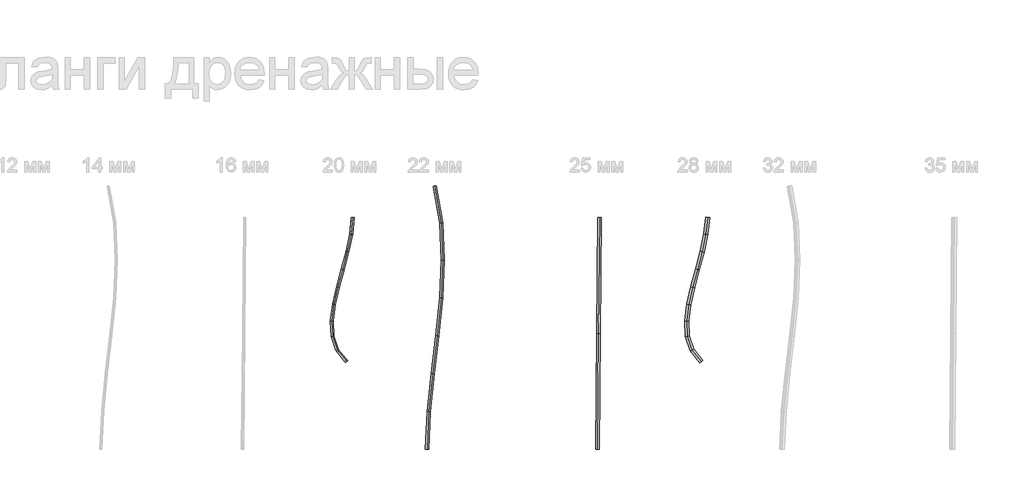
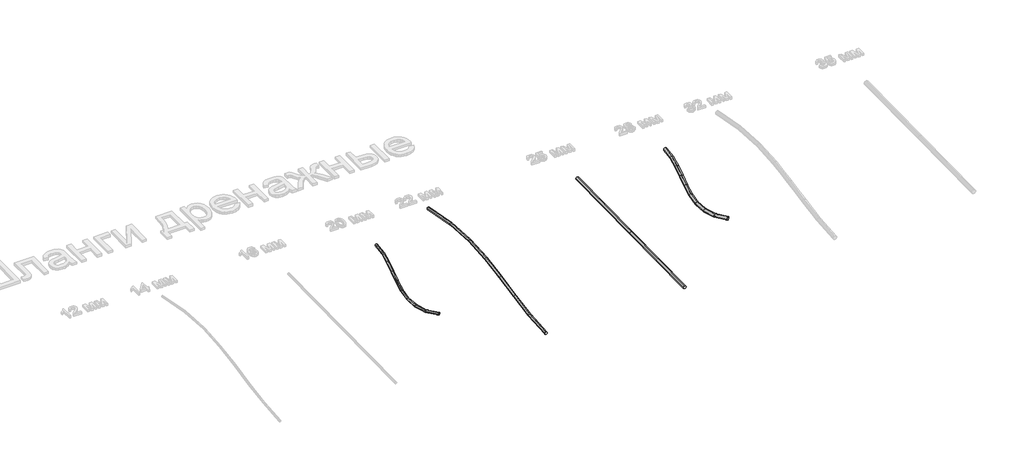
# One storey, part 2 of 21: 4 pipe segments.
"""IFC4 building model written with IfcOpenShell, lengths in millimetres."""

from ifc_helpers import new_model, si_unit, frame, origin, place, context, project, spatial, circle_curve, ellipse_curve, element, save
from ifc_brep_helpers import plane_surface, cylinder_surface, advanced_brep

model = new_model("IFC4")

# Units and contexts
model_context = context("Model", 3, world=origin())
ifc_project = project(units=[si_unit("LENGTHUNIT", "METRE", prefix="MILLI")], contexts=[model_context])

# Site, building, storey
site = spatial("IfcSite", under=ifc_project)
building = spatial("IfcBuilding", under=site)
storey = spatial("IfcBuildingStorey", under=building, Name="Этаж 01", Elevation=0.0)

# Pipe segments
placement = place(None, origin())
element("IfcPipeSegment", 1, ObjectType="Шланги дренажные ДКС", at=placement, inside=storey, context=model_context, shape_type="AdvancedBrep", body=[
    advanced_brep(
    [(9677.1656935, -2750.0604781, 0.0), (9667.2101295, -2749.1188064, -10.0), (9657.2545655, -2748.1771347, 0.0), (9667.2101295, -2749.1188064, 10.0), (9666.0578065, -2867.4955407, 0.0), (9656.1552474, -2865.9934903, -10.0), (9646.2526882, -2864.4914399, 0.0), (9656.1552474, -2865.9934903, 10.0), (9631.3854271, -3759.3198663, 0.0), (9623.6037335, -3765.6004113, 10.0), (9615.8220399, -3771.8809562, 0.0), (9623.6037335, -3765.6004113, -10.0), (9640.1650921, -2990.9340936, 0.0), (9630.4331674, -2988.6185758, -10.0), (9620.7012428, -2986.303058, 0.0), (9630.4331674, -2988.6185758, 10.0), (9606.6580056, -3116.6830524, 0.0), (9596.9951595, -3114.108289, -10.0), (9587.3323135, -3111.5335256, 0.0), (9596.9951595, -3114.108289, 10.0), (9572.4949027, -3242.0071091, 0.0), (9562.7924934, -3239.5768561, -10.0), (9553.0900842, -3237.1466031, 0.0), (9562.7924934, -3239.5768561, 10.0), (9544.6342621, -3363.8888682, 0.0), (9534.776439, -3362.1385031, -10.0), (9524.9186159, -3360.3881379, 0.0), (9534.776439, -3362.1385031, 10.0), (9529.9288845, -3479.3016639, 0.0), (9519.8982659, -3478.907456, -10.0), (9509.8676474, -3478.513248, 0.0), (9519.8982659, -3478.907456, 10.0), (9535.0311871, -3585.13791, 0.0), (9525.1092441, -3586.9979409, -10.0), (9515.1873011, -3588.8579718, 0.0), (9525.1092441, -3586.9979409, 10.0), (9566.2741509, -3678.6459742, 0.0), (9557.3606434, -3683.524184, -10.0), (9548.4471359, -3688.4023938, 0.0), (9557.3606434, -3683.524184, 10.0)],
    [
        (0, 1, circle_curve(frame((9667.2101295, -2749.1188064, 0.0), z_axis=(0.09416717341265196, 0.9955563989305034, 0.0), x_axis=(0.9955563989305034, -0.09416717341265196, 0.0)), 10.0)),
        (1, 2, circle_curve(frame((9667.2101295, -2749.1188064, 0.0), z_axis=(0.09416717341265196, 0.9955563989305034, 0.0), x_axis=(0.9955563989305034, -0.09416717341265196, 0.0)), 10.0)),
        (2, 3, circle_curve(frame((9667.2101295, -2749.1188064, 0.0), z_axis=(0.09416717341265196, 0.9955563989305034, 0.0), x_axis=(0.9955563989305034, -0.09416717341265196, 0.0)), 10.0)),
        (3, 0, circle_curve(frame((9667.2101295, -2749.1188064, 0.0), z_axis=(0.09416717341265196, 0.9955563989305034, 0.0), x_axis=(0.9955563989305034, -0.09416717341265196, 0.0)), 10.0)),
        (0, 4),
        (4, 5, ellipse_curve(frame((9656.1552474, -2865.9934903, 0.0), z_axis=(0.14996765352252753, 0.9886909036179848, 0.0), x_axis=(-0.9886909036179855, 0.1499676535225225, 0.0)), 10.0158292, 10.0)),
        (5, 1),
        (5, 6, ellipse_curve(frame((9656.1552474, -2865.9934903, 0.0), z_axis=(0.14996765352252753, 0.9886909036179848, 0.0), x_axis=(-0.9886909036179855, 0.1499676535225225, 0.0)), 10.0158292, 10.0)),
        (6, 2),
        (6, 7, ellipse_curve(frame((9656.1552474, -2865.9934903, 0.0), z_axis=(0.14996765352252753, 0.9886909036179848, 0.0), x_axis=(-0.9886909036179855, 0.1499676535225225, 0.0)), 10.0158292, 10.0)),
        (7, 3),
        (7, 4, ellipse_curve(frame((9656.1552474, -2865.9934903, 0.0), z_axis=(0.14996765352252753, 0.9886909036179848, 0.0), x_axis=(-0.9886909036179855, 0.1499676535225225, 0.0)), 10.0158292, 10.0)),
        (8, 9, circle_curve(frame((9623.6037335, -3765.6004113, 0.0), z_axis=(0.6280544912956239, -0.7781693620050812, 0.0), x_axis=(0.7781693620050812, 0.6280544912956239, 0.0)), 10.0)),
        (9, 10, circle_curve(frame((9623.6037335, -3765.6004113, 0.0), z_axis=(0.6280544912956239, -0.7781693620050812, 0.0), x_axis=(0.7781693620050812, 0.6280544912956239, 0.0)), 10.0)),
        (10, 11, circle_curve(frame((9623.6037335, -3765.6004113, 0.0), z_axis=(0.6280544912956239, -0.7781693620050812, 0.0), x_axis=(0.7781693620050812, 0.6280544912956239, 0.0)), 10.0)),
        (11, 8, circle_curve(frame((9623.6037335, -3765.6004113, 0.0), z_axis=(0.6280544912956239, -0.7781693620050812, 0.0), x_axis=(0.7781693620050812, 0.6280544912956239, 0.0)), 10.0)),
        (4, 12),
        (12, 13, ellipse_curve(frame((9630.4331674, -2988.6185758, 0.0), z_axis=(0.23146848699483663, 0.9728424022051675, 0.0), x_axis=(-0.9728424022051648, 0.23146848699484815, 0.0)), 10.0035984, 10.0)),
        (13, 5),
        (13, 14, ellipse_curve(frame((9630.4331674, -2988.6185758, 0.0), z_axis=(0.23146848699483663, 0.9728424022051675, 0.0), x_axis=(-0.9728424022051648, 0.23146848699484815, 0.0)), 10.0035984, 10.0)),
        (14, 6),
        (14, 15, ellipse_curve(frame((9630.4331674, -2988.6185758, 0.0), z_axis=(0.23146848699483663, 0.9728424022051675, 0.0), x_axis=(-0.9728424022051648, 0.23146848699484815, 0.0)), 10.0035984, 10.0)),
        (15, 7),
        (15, 12, ellipse_curve(frame((9630.4331674, -2988.6185758, 0.0), z_axis=(0.23146848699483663, 0.9728424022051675, 0.0), x_axis=(-0.9728424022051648, 0.23146848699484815, 0.0)), 10.0035984, 10.0)),
        (12, 16),
        (16, 17, circle_curve(frame((9596.9951595, -3114.108289, 0.0), z_axis=(0.2574763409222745, 0.9662846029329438, 0.0), x_axis=(0.9662846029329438, -0.2574763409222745, 0.0)), 10.0)),
        (17, 13),
        (17, 18, circle_curve(frame((9596.9951595, -3114.108289, 0.0), z_axis=(0.2574763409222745, 0.9662846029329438, 0.0), x_axis=(0.9662846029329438, -0.2574763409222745, 0.0)), 10.0)),
        (18, 14),
        (18, 19, circle_curve(frame((9596.9951595, -3114.108289, 0.0), z_axis=(0.2574763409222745, 0.9662846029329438, 0.0), x_axis=(0.9662846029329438, -0.2574763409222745, 0.0)), 10.0)),
        (19, 15),
        (19, 16, circle_curve(frame((9596.9951595, -3114.108289, 0.0), z_axis=(0.2574763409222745, 0.9662846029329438, 0.0), x_axis=(0.9662846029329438, -0.2574763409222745, 0.0)), 10.0)),
        (16, 20),
        (20, 21, ellipse_curve(frame((9562.7924934, -3239.5768561, 0.0), z_axis=(0.24297321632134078, 0.9700329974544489, 0.0), x_axis=(0.9700329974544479, -0.2429732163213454, 0.0)), 10.0021435, 10.0)),
        (21, 17),
        (21, 22, ellipse_curve(frame((9562.7924934, -3239.5768561, 0.0), z_axis=(0.24297321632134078, 0.9700329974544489, 0.0), x_axis=(0.9700329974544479, -0.2429732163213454, 0.0)), 10.0021435, 10.0)),
        (22, 18),
        (22, 23, ellipse_curve(frame((9562.7924934, -3239.5768561, 0.0), z_axis=(0.24297321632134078, 0.9700329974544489, 0.0), x_axis=(0.9700329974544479, -0.2429732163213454, 0.0)), 10.0021435, 10.0)),
        (23, 19),
        (23, 20, ellipse_curve(frame((9562.7924934, -3239.5768561, 0.0), z_axis=(0.24297321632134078, 0.9700329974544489, 0.0), x_axis=(0.9700329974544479, -0.2429732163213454, 0.0)), 10.0021435, 10.0)),
        (20, 24),
        (24, 25, ellipse_curve(frame((9534.776439, -3362.1385031, 0.0), z_axis=(0.17482645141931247, 0.9845992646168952, 0.0), x_axis=(0.9845992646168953, -0.1748264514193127, 0.0)), 10.0120155, 10.0)),
        (25, 21),
        (25, 26, ellipse_curve(frame((9534.776439, -3362.1385031, 0.0), z_axis=(0.17482645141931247, 0.9845992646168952, 0.0), x_axis=(0.9845992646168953, -0.1748264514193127, 0.0)), 10.0120155, 10.0)),
        (26, 22),
        (26, 27, ellipse_curve(frame((9534.776439, -3362.1385031, 0.0), z_axis=(0.17482645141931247, 0.9845992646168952, 0.0), x_axis=(0.9845992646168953, -0.1748264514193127, 0.0)), 10.0120155, 10.0)),
        (27, 23),
        (27, 24, ellipse_curve(frame((9534.776439, -3362.1385031, 0.0), z_axis=(0.17482645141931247, 0.9845992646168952, 0.0), x_axis=(0.9845992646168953, -0.1748264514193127, 0.0)), 10.0120155, 10.0)),
        (24, 28),
        (28, 29, ellipse_curve(frame((9519.8982659, -3478.907456, 0.0), z_axis=(0.03927014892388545, 0.9992286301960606, 0.0), x_axis=(0.9992286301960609, -0.03927014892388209, 0.0)), 10.0383618, 10.0)),
        (29, 25),
        (29, 30, ellipse_curve(frame((9519.8982659, -3478.907456, 0.0), z_axis=(0.03927014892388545, 0.9992286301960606, 0.0), x_axis=(0.9992286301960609, -0.03927014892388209, 0.0)), 10.0383618, 10.0)),
        (30, 26),
        (30, 31, ellipse_curve(frame((9519.8982659, -3478.907456, 0.0), z_axis=(0.03927014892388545, 0.9992286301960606, 0.0), x_axis=(0.9992286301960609, -0.03927014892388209, 0.0)), 10.0383618, 10.0)),
        (31, 27),
        (31, 28, ellipse_curve(frame((9519.8982659, -3478.907456, 0.0), z_axis=(0.03927014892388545, 0.9992286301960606, 0.0), x_axis=(0.9992286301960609, -0.03927014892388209, 0.0)), 10.0383618, 10.0)),
        (28, 32),
        (32, 33, ellipse_curve(frame((9525.1092441, -3586.9979409, 0.0), z_axis=(-0.18425662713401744, 0.9828781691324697, 0.0), x_axis=(0.98287816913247, 0.18425662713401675, 0.0)), 10.0947842, 10.0)),
        (33, 29),
        (33, 34, ellipse_curve(frame((9525.1092441, -3586.9979409, 0.0), z_axis=(-0.18425662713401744, 0.9828781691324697, 0.0), x_axis=(0.98287816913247, 0.18425662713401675, 0.0)), 10.0947842, 10.0)),
        (34, 30),
        (34, 35, ellipse_curve(frame((9525.1092441, -3586.9979409, 0.0), z_axis=(-0.18425662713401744, 0.9828781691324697, 0.0), x_axis=(0.98287816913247, 0.18425662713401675, 0.0)), 10.0947842, 10.0)),
        (35, 31),
        (35, 32, ellipse_curve(frame((9525.1092441, -3586.9979409, 0.0), z_axis=(-0.18425662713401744, 0.9828781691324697, 0.0), x_axis=(0.98287816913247, 0.18425662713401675, 0.0)), 10.0947842, 10.0)),
        (32, 36),
        (36, 37, ellipse_curve(frame((9557.3606434, -3683.524184, 0.0), z_axis=(-0.4800877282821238, 0.8772204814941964, 0.0), x_axis=(0.8772204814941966, 0.480087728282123, 0.0)), 10.16108, 10.0)),
        (37, 33),
        (37, 38, ellipse_curve(frame((9557.3606434, -3683.524184, 0.0), z_axis=(-0.4800877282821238, 0.8772204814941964, 0.0), x_axis=(0.8772204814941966, 0.480087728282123, 0.0)), 10.16108, 10.0)),
        (38, 34),
        (38, 39, ellipse_curve(frame((9557.3606434, -3683.524184, 0.0), z_axis=(-0.4800877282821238, 0.8772204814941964, 0.0), x_axis=(0.8772204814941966, 0.480087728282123, 0.0)), 10.16108, 10.0)),
        (39, 35),
        (39, 36, ellipse_curve(frame((9557.3606434, -3683.524184, 0.0), z_axis=(-0.4800877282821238, 0.8772204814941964, 0.0), x_axis=(0.8772204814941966, 0.480087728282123, 0.0)), 10.16108, 10.0)),
        (36, 8),
        (11, 37),
        (10, 38),
        (9, 39),
    ],
    [
        plane_surface(frame((9667.2101295, -2749.1188064, -10.0), z_axis=(0.09416717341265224, 0.9955563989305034, 0.0), x_axis=(0.9955563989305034, -0.09416717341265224, 0.0))),
        cylinder_surface(frame((9667.2101295, -2749.1188064, 0.0), z_axis=(0.09416717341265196, 0.9955563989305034, 0.0), x_axis=(0.9955563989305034, -0.09416717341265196, 0.0)), 10.0),
        plane_surface(frame((9623.6037335, -3765.6004113, -10.0), z_axis=(0.6280544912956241, -0.7781693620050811, 0.0), x_axis=(0.7781693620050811, 0.6280544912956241, 0.0))),
        cylinder_surface(frame((9656.1552474, -2865.9934903, 0.0), z_axis=(0.20529411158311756, 0.9787003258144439, 0.0), x_axis=(0.9787003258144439, -0.20529411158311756, 0.0)), 10.0),
        cylinder_surface(frame((9630.4331674, -2988.6185758, 0.0), z_axis=(0.2574763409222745, 0.9662846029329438, 0.0), x_axis=(0.9662846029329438, -0.2574763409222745, 0.0)), 10.0),
        cylinder_surface(frame((9596.9951595, -3114.108289, 0.0), z_axis=(0.263002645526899, 0.9647951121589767, 0.0), x_axis=(0.9647951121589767, -0.263002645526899, 0.0)), 10.0),
        cylinder_surface(frame((9562.7924934, -3239.5768561, 0.0), z_axis=(0.22283964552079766, 0.9748551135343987, 0.0), x_axis=(0.9748551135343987, -0.22283964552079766, 0.0)), 10.0),
        cylinder_surface(frame((9534.776439, -3362.1385031, 0.0), z_axis=(0.12639363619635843, 0.9919801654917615, 0.0), x_axis=(0.9919801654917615, -0.12639363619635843, 0.0)), 10.0),
        cylinder_surface(frame((9519.8982659, -3478.907456, 0.0), z_axis=(-0.04815348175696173, 0.9988399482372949, 0.0), x_axis=(0.9988399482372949, 0.04815348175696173, 0.0)), 10.0),
        cylinder_surface(frame((9525.1092441, -3586.9979409, 0.0), z_axis=(-0.3168996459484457, 0.9484590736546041, 0.0), x_axis=(0.9484590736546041, 0.3168996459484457, 0.0)), 10.0),
        cylinder_surface(frame((9557.3606434, -3683.524184, 0.0), z_axis=(-0.6280544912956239, 0.7781693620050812, 0.0), x_axis=(0.7781693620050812, 0.6280544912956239, 0.0)), 10.0),
    ],
    [
        (0, [[1, 2, 3, 4]]),
        (1, [[-1, 5, 6, 7]]),
        (1, [[-2, -7, 8, 9]]),
        (1, [[-3, -9, 10, 11]]),
        (1, [[-4, -11, 12, -5]]),
        (2, [[13, 14, 15, 16]]),
        (3, [[-6, 17, 18, 19]]),
        (3, [[-8, -19, 20, 21]]),
        (3, [[-10, -21, 22, 23]]),
        (3, [[-12, -23, 24, -17]]),
        (4, [[-18, 25, 26, 27]]),
        (4, [[-20, -27, 28, 29]]),
        (4, [[-22, -29, 30, 31]]),
        (4, [[-24, -31, 32, -25]]),
        (5, [[-26, 33, 34, 35]]),
        (5, [[-28, -35, 36, 37]]),
        (5, [[-30, -37, 38, 39]]),
        (5, [[-32, -39, 40, -33]]),
        (6, [[-34, 41, 42, 43]]),
        (6, [[-36, -43, 44, 45]]),
        (6, [[-38, -45, 46, 47]]),
        (6, [[-40, -47, 48, -41]]),
        (7, [[-42, 49, 50, 51]]),
        (7, [[-44, -51, 52, 53]]),
        (7, [[-46, -53, 54, 55]]),
        (7, [[-48, -55, 56, -49]]),
        (8, [[-50, 57, 58, 59]]),
        (8, [[-52, -59, 60, 61]]),
        (8, [[-54, -61, 62, 63]]),
        (8, [[-56, -63, 64, -57]]),
        (9, [[-58, 65, 66, 67]]),
        (9, [[-60, -67, 68, 69]]),
        (9, [[-62, -69, 70, 71]]),
        (9, [[-64, -71, 72, -65]]),
        (10, [[-66, 73, -16, 74]]),
        (10, [[-68, -74, -15, 75]]),
        (10, [[-70, -75, -14, 76]]),
        (10, [[-72, -76, -13, -73]]),
    ],
),
])
element("IfcPipeSegment", 2, ObjectType="Шланги дренажные ДКС", at=placement, inside=storey, context=model_context, shape_type="AdvancedBrep", body=[
    advanced_brep(
    [(10254.9238446, -2526.2496696, 0.0), (10244.0909127, -2528.159535, -11.0), (10233.2579807, -2530.0694003, 0.0), (10244.0909127, -2528.159535, 11.0), (10300.7241078, -2786.032973, 0.0), (10289.7682496, -2787.2455891, -11.0), (10278.8123914, -2788.4582052, 0.0), (10289.7682496, -2787.2455891, 11.0), (10201.7882876, -4384.2696309, 0.0), (10190.8022237, -4383.716097, 11.0), (10179.8161598, -4383.162563, 0.0), (10190.8022237, -4383.716097, -11.0), (10312.8626644, -3049.9691783, 0.0), (10301.8512205, -3049.9731598, -11.0), (10290.8397766, -3049.9771413, 0.0), (10301.8512205, -3049.9731598, 11.0), (10300.813738, -3316.1506534, 0.0), (10289.8384436, -3315.3560282, -11.0), (10278.8631493, -3314.561403, 0.0), (10289.8384436, -3315.3560282, 11.0), (10274.1642064, -3583.6002712, 0.0), (10263.2285373, -3582.4079752, -11.0), (10252.2928681, -3581.2156791, 0.0), (10263.2285373, -3582.4079752, 11.0), (10242.454207, -3851.3484342, 0.0), (10231.5201197, -3850.1427817, -11.0), (10220.5860324, -3848.9371291, 0.0), (10231.5201197, -3850.1427817, 11.0), (10215.183639, -4118.4102659, 0.0), (10204.2118091, -4117.5742286, -11.0), (10193.2399791, -4116.7381913, 0.0), (10204.2118091, -4117.5742286, 11.0)],
    [
        (0, 1, circle_curve(frame((10244.0909127, -2528.159535, 0.0), z_axis=(-0.17362412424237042, 0.9848119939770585, 0.0), x_axis=(0.9848119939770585, 0.17362412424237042, 0.0)), 11.0)),
        (1, 2, circle_curve(frame((10244.0909127, -2528.159535, 0.0), z_axis=(-0.17362412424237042, 0.9848119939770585, 0.0), x_axis=(0.9848119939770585, 0.17362412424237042, 0.0)), 11.0)),
        (2, 3, circle_curve(frame((10244.0909127, -2528.159535, 0.0), z_axis=(-0.17362412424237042, 0.9848119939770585, 0.0), x_axis=(0.9848119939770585, 0.17362412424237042, 0.0)), 11.0)),
        (3, 0, circle_curve(frame((10244.0909127, -2528.159535, 0.0), z_axis=(-0.17362412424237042, 0.9848119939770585, 0.0), x_axis=(0.9848119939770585, 0.17362412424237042, 0.0)), 11.0)),
        (0, 4),
        (4, 5, ellipse_curve(frame((10289.7682496, -2787.2455891, 0.0), z_axis=(-0.11001019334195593, 0.9939304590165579, 0.0), x_axis=(-0.993930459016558, -0.11001019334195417, 0.0)), 11.0227613, 11.0)),
        (5, 1),
        (5, 6, ellipse_curve(frame((10289.7682496, -2787.2455891, 0.0), z_axis=(-0.11001019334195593, 0.9939304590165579, 0.0), x_axis=(-0.993930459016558, -0.11001019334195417, 0.0)), 11.0227613, 11.0)),
        (6, 2),
        (6, 7, ellipse_curve(frame((10289.7682496, -2787.2455891, 0.0), z_axis=(-0.11001019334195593, 0.9939304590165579, 0.0), x_axis=(-0.993930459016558, -0.11001019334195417, 0.0)), 11.0227613, 11.0)),
        (7, 3),
        (7, 4, ellipse_curve(frame((10289.7682496, -2787.2455891, 0.0), z_axis=(-0.11001019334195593, 0.9939304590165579, 0.0), x_axis=(-0.993930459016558, -0.11001019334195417, 0.0)), 11.0227613, 11.0)),
        (8, 9, circle_curve(frame((10190.8022237, -4383.716097, 0.0), z_axis=(-0.0503212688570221, -0.99873308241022, 0.0), x_axis=(0.99873308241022, -0.0503212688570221, 0.0)), 11.0)),
        (9, 10, circle_curve(frame((10190.8022237, -4383.716097, 0.0), z_axis=(-0.0503212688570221, -0.99873308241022, 0.0), x_axis=(0.99873308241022, -0.0503212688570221, 0.0)), 11.0)),
        (10, 11, circle_curve(frame((10190.8022237, -4383.716097, 0.0), z_axis=(-0.0503212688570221, -0.99873308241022, 0.0), x_axis=(0.99873308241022, -0.0503212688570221, 0.0)), 11.0)),
        (11, 8, circle_curve(frame((10190.8022237, -4383.716097, 0.0), z_axis=(-0.0503212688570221, -0.99873308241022, 0.0), x_axis=(0.99873308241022, -0.0503212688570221, 0.0)), 11.0)),
        (4, 12),
        (12, 13, ellipse_curve(frame((10301.8512205, -3049.9731598, 0.0), z_axis=(-0.0003615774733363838, 0.9999999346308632, 0.0), x_axis=(-0.9999999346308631, -0.00036157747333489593, 0.0)), 11.0114447, 11.0)),
        (13, 5),
        (13, 14, ellipse_curve(frame((10301.8512205, -3049.9731598, 0.0), z_axis=(-0.0003615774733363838, 0.9999999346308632, 0.0), x_axis=(-0.9999999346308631, -0.00036157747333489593, 0.0)), 11.0114447, 11.0)),
        (14, 6),
        (14, 15, ellipse_curve(frame((10301.8512205, -3049.9731598, 0.0), z_axis=(-0.0003615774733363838, 0.9999999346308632, 0.0), x_axis=(-0.9999999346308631, -0.00036157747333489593, 0.0)), 11.0114447, 11.0)),
        (15, 7),
        (15, 12, ellipse_curve(frame((10301.8512205, -3049.9731598, 0.0), z_axis=(-0.0003615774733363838, 0.9999999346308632, 0.0), x_axis=(-0.9999999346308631, -0.00036157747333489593, 0.0)), 11.0114447, 11.0)),
        (12, 16),
        (16, 17, ellipse_curve(frame((10289.8384436, -3315.3560282, 0.0), z_axis=(0.07221224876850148, 0.9973892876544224, 0.0), x_axis=(-0.9973892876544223, 0.07221224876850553, 0.0)), 11.0040227, 11.0)),
        (17, 13),
        (17, 18, ellipse_curve(frame((10289.8384436, -3315.3560282, 0.0), z_axis=(0.07221224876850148, 0.9973892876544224, 0.0), x_axis=(-0.9973892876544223, 0.07221224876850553, 0.0)), 11.0040227, 11.0)),
        (18, 14),
        (18, 19, ellipse_curve(frame((10289.8384436, -3315.3560282, 0.0), z_axis=(0.07221224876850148, 0.9973892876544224, 0.0), x_axis=(-0.9973892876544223, 0.07221224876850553, 0.0)), 11.0040227, 11.0)),
        (19, 15),
        (19, 16, ellipse_curve(frame((10289.8384436, -3315.3560282, 0.0), z_axis=(0.07221224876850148, 0.9973892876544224, 0.0), x_axis=(-0.9973892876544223, 0.07221224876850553, 0.0)), 11.0040227, 11.0)),
        (16, 20),
        (20, 21, ellipse_curve(frame((10263.2285373, -3582.4079752, 0.0), z_axis=(0.10838587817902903, 0.9941088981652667, 0.0), x_axis=(-0.9941088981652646, 0.10838587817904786, 0.0)), 11.0004741, 11.0)),
        (21, 17),
        (21, 22, ellipse_curve(frame((10263.2285373, -3582.4079752, 0.0), z_axis=(0.10838587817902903, 0.9941088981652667, 0.0), x_axis=(-0.9941088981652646, 0.10838587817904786, 0.0)), 11.0004741, 11.0)),
        (22, 18),
        (22, 23, ellipse_curve(frame((10263.2285373, -3582.4079752, 0.0), z_axis=(0.10838587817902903, 0.9941088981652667, 0.0), x_axis=(-0.9941088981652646, 0.10838587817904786, 0.0)), 11.0004741, 11.0)),
        (23, 19),
        (23, 20, ellipse_curve(frame((10263.2285373, -3582.4079752, 0.0), z_axis=(0.10838587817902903, 0.9941088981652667, 0.0), x_axis=(-0.9941088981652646, 0.10838587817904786, 0.0)), 11.0004741, 11.0)),
        (20, 24),
        (24, 25, ellipse_curve(frame((10231.5201197, -3850.1427817, 0.0), z_axis=(0.10960121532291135, 0.9939756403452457, 0.0), x_axis=(0.9939756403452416, -0.10960121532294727, 0.0)), 11.0003574, 11.0)),
        (25, 21),
        (25, 26, ellipse_curve(frame((10231.5201197, -3850.1427817, 0.0), z_axis=(0.10960121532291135, 0.9939756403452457, 0.0), x_axis=(0.9939756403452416, -0.10960121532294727, 0.0)), 11.0003574, 11.0)),
        (26, 22),
        (26, 27, ellipse_curve(frame((10231.5201197, -3850.1427817, 0.0), z_axis=(0.10960121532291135, 0.9939756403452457, 0.0), x_axis=(0.9939756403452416, -0.10960121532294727, 0.0)), 11.0003574, 11.0)),
        (27, 23),
        (27, 24, ellipse_curve(frame((10231.5201197, -3850.1427817, 0.0), z_axis=(0.10960121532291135, 0.9939756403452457, 0.0), x_axis=(0.9939756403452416, -0.10960121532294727, 0.0)), 11.0003574, 11.0)),
        (24, 28),
        (28, 29, ellipse_curve(frame((10204.2118091, -4117.5742286, 0.0), z_axis=(0.07597827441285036, 0.9971094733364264, 0.0), x_axis=(0.9971094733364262, -0.07597827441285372, 0.0)), 11.0036363, 11.0)),
        (29, 25),
        (29, 30, ellipse_curve(frame((10204.2118091, -4117.5742286, 0.0), z_axis=(0.07597827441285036, 0.9971094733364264, 0.0), x_axis=(0.9971094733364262, -0.07597827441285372, 0.0)), 11.0036363, 11.0)),
        (30, 26),
        (30, 31, ellipse_curve(frame((10204.2118091, -4117.5742286, 0.0), z_axis=(0.07597827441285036, 0.9971094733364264, 0.0), x_axis=(0.9971094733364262, -0.07597827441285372, 0.0)), 11.0036363, 11.0)),
        (31, 27),
        (31, 28, ellipse_curve(frame((10204.2118091, -4117.5742286, 0.0), z_axis=(0.07597827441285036, 0.9971094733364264, 0.0), x_axis=(0.9971094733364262, -0.07597827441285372, 0.0)), 11.0036363, 11.0)),
        (28, 8),
        (11, 29),
        (10, 30),
        (9, 31),
    ],
    [
        plane_surface(frame((10244.0909127, -2528.159535, -11.0), z_axis=(-0.1736241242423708, 0.9848119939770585, 0.0), x_axis=(0.9848119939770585, 0.1736241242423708, 0.0))),
        cylinder_surface(frame((10244.0909127, -2528.159535, 0.0), z_axis=(-0.17362412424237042, 0.9848119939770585, 0.0), x_axis=(0.9848119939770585, 0.17362412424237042, 0.0)), 11.0),
        plane_surface(frame((10190.8022237, -4383.716097, -11.0), z_axis=(-0.050321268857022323, -0.99873308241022, 0.0), x_axis=(0.99873308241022, -0.050321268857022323, 0.0))),
        cylinder_surface(frame((10289.7682496, -2787.2455891, 0.0), z_axis=(-0.04594193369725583, 0.9989441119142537, 0.0), x_axis=(0.9989441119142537, 0.04594193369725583, 0.0)), 11.0),
        cylinder_surface(frame((10301.8512205, -3049.9731598, 0.0), z_axis=(0.04521953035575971, 0.9989770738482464, 0.0), x_axis=(0.9989770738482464, -0.04521953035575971, 0.0)), 11.0),
        cylinder_surface(frame((10289.8384436, -3315.3560282, 0.0), z_axis=(0.09915217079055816, 0.9950722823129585, 0.0), x_axis=(0.9950722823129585, -0.09915217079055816, 0.0)), 11.0),
        cylinder_surface(frame((10263.2285373, -3582.4079752, 0.0), z_axis=(0.11761024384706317, 0.993059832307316, 0.0), x_axis=(0.993059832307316, -0.11761024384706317, 0.0)), 11.0),
        cylinder_surface(frame((10231.5201197, -3850.1427817, 0.0), z_axis=(0.10158506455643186, 0.994826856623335, 0.0), x_axis=(0.994826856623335, -0.10158506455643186, 0.0)), 11.0),
        cylinder_surface(frame((10204.2118091, -4117.5742286, 0.0), z_axis=(0.0503212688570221, 0.99873308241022, 0.0), x_axis=(0.99873308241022, -0.0503212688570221, 0.0)), 11.0),
    ],
    [
        (0, [[1, 2, 3, 4]]),
        (1, [[-1, 5, 6, 7]]),
        (1, [[-2, -7, 8, 9]]),
        (1, [[-3, -9, 10, 11]]),
        (1, [[-4, -11, 12, -5]]),
        (2, [[13, 14, 15, 16]]),
        (3, [[-6, 17, 18, 19]]),
        (3, [[-8, -19, 20, 21]]),
        (3, [[-10, -21, 22, 23]]),
        (3, [[-12, -23, 24, -17]]),
        (4, [[-18, 25, 26, 27]]),
        (4, [[-20, -27, 28, 29]]),
        (4, [[-22, -29, 30, 31]]),
        (4, [[-24, -31, 32, -25]]),
        (5, [[-26, 33, 34, 35]]),
        (5, [[-28, -35, 36, 37]]),
        (5, [[-30, -37, 38, 39]]),
        (5, [[-32, -39, 40, -33]]),
        (6, [[-34, 41, 42, 43]]),
        (6, [[-36, -43, 44, 45]]),
        (6, [[-38, -45, 46, 47]]),
        (6, [[-40, -47, 48, -41]]),
        (7, [[-42, 49, 50, 51]]),
        (7, [[-44, -51, 52, 53]]),
        (7, [[-46, -53, 54, 55]]),
        (7, [[-48, -55, 56, -49]]),
        (8, [[-50, 57, -16, 58]]),
        (8, [[-52, -58, -15, 59]]),
        (8, [[-54, -59, -14, 60]]),
        (8, [[-56, -60, -13, -57]]),
    ],
),
])
element("IfcPipeSegment", 3, ObjectType="Шланги дренажные ДКС", at=placement, inside=storey, context=model_context, shape_type="AdvancedBrep", body=[
    advanced_brep(
    [(12181.1479191, -2750.4371468, 0.0), (12167.2101295, -2749.1188064, -14.0), (12153.2723399, -2747.800466, 0.0), (12167.2101295, -2749.1188064, 14.0), (12170.0188302, -2868.0963608, 0.0), (12156.1552474, -2865.9934903, -14.0), (12142.2916645, -2863.8906197, 0.0), (12156.1552474, -2865.9934903, 14.0), (12134.4981046, -3756.8076484, 0.0), (12123.6037335, -3765.6004113, 14.0), (12112.7093624, -3774.3931741, 0.0), (12123.6037335, -3765.6004113, -14.0), (12144.057862, -2991.8603007, 0.0), (12130.4331674, -2988.6185758, -14.0), (12116.8084729, -2985.3768509, 0.0), (12130.4331674, -2988.6185758, 14.0), (12110.523144, -3117.7129578, 0.0), (12096.9951595, -3114.108289, -14.0), (12083.4671751, -3110.5036203, 0.0), (12096.9951595, -3114.108289, 14.0), (12076.3758664, -3242.9792103, 0.0), (12062.7924934, -3239.5768561, -14.0), (12049.2091205, -3236.1745019, 0.0), (12062.7924934, -3239.5768561, 14.0), (12048.5773913, -3364.5890142, 0.0), (12034.776439, -3362.1385031, -14.0), (12020.9754866, -3359.6879919, 0.0), (12034.776439, -3362.1385031, 14.0), (12033.9411319, -3479.4593471, 0.0), (12019.8982659, -3478.907456, -14.0), (12005.8554, -3478.3555648, 0.0), (12019.8982659, -3478.907456, 14.0), (12038.9999643, -3584.3938977, 0.0), (12025.1092441, -3586.9979409, -14.0), (12011.2185239, -3589.6019842, 0.0), (12025.1092441, -3586.9979409, 14.0), (12069.8395538, -3676.6946903, 0.0), (12057.3606434, -3683.524184, -14.0), (12044.8817329, -3690.3536777, 0.0), (12057.3606434, -3683.524184, 14.0)],
    [
        (0, 1, circle_curve(frame((12167.2101295, -2749.1188064, 0.0), z_axis=(0.09416717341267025, 0.9955563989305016, 0.0), x_axis=(0.9955563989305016, -0.09416717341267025, 0.0)), 14.0)),
        (1, 2, circle_curve(frame((12167.2101295, -2749.1188064, 0.0), z_axis=(0.09416717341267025, 0.9955563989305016, 0.0), x_axis=(0.9955563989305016, -0.09416717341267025, 0.0)), 14.0)),
        (2, 3, circle_curve(frame((12167.2101295, -2749.1188064, 0.0), z_axis=(0.09416717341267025, 0.9955563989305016, 0.0), x_axis=(0.9955563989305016, -0.09416717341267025, 0.0)), 14.0)),
        (3, 0, circle_curve(frame((12167.2101295, -2749.1188064, 0.0), z_axis=(0.09416717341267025, 0.9955563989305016, 0.0), x_axis=(0.9955563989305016, -0.09416717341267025, 0.0)), 14.0)),
        (0, 4),
        (4, 5, ellipse_curve(frame((12156.1552474, -2865.9934903, 0.0), z_axis=(0.1499676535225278, 0.9886909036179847, 0.0), x_axis=(-0.9886909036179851, 0.14996765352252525, 0.0)), 14.0221608, 14.0)),
        (5, 1),
        (5, 6, ellipse_curve(frame((12156.1552474, -2865.9934903, 0.0), z_axis=(0.1499676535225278, 0.9886909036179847, 0.0), x_axis=(-0.9886909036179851, 0.14996765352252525, 0.0)), 14.0221608, 14.0)),
        (6, 2),
        (6, 7, ellipse_curve(frame((12156.1552474, -2865.9934903, 0.0), z_axis=(0.1499676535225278, 0.9886909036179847, 0.0), x_axis=(-0.9886909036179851, 0.14996765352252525, 0.0)), 14.0221608, 14.0)),
        (7, 3),
        (7, 4, ellipse_curve(frame((12156.1552474, -2865.9934903, 0.0), z_axis=(0.1499676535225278, 0.9886909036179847, 0.0), x_axis=(-0.9886909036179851, 0.14996765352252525, 0.0)), 14.0221608, 14.0)),
        (8, 9, circle_curve(frame((12123.6037335, -3765.6004113, 0.0), z_axis=(0.6280544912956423, -0.7781693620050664, 0.0), x_axis=(0.7781693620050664, 0.6280544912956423, 0.0)), 14.0)),
        (9, 10, circle_curve(frame((12123.6037335, -3765.6004113, 0.0), z_axis=(0.6280544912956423, -0.7781693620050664, 0.0), x_axis=(0.7781693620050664, 0.6280544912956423, 0.0)), 14.0)),
        (10, 11, circle_curve(frame((12123.6037335, -3765.6004113, 0.0), z_axis=(0.6280544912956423, -0.7781693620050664, 0.0), x_axis=(0.7781693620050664, 0.6280544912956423, 0.0)), 14.0)),
        (11, 8, circle_curve(frame((12123.6037335, -3765.6004113, 0.0), z_axis=(0.6280544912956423, -0.7781693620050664, 0.0), x_axis=(0.7781693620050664, 0.6280544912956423, 0.0)), 14.0)),
        (4, 12),
        (12, 13, ellipse_curve(frame((12130.4331674, -2988.6185758, 0.0), z_axis=(0.23146848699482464, 0.9728424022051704, 0.0), x_axis=(-0.9728424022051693, 0.23146848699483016, 0.0)), 14.0050377, 14.0)),
        (13, 5),
        (13, 14, ellipse_curve(frame((12130.4331674, -2988.6185758, 0.0), z_axis=(0.23146848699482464, 0.9728424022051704, 0.0), x_axis=(-0.9728424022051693, 0.23146848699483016, 0.0)), 14.0050377, 14.0)),
        (14, 6),
        (14, 15, ellipse_curve(frame((12130.4331674, -2988.6185758, 0.0), z_axis=(0.23146848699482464, 0.9728424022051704, 0.0), x_axis=(-0.9728424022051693, 0.23146848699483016, 0.0)), 14.0050377, 14.0)),
        (15, 7),
        (15, 12, ellipse_curve(frame((12130.4331674, -2988.6185758, 0.0), z_axis=(0.23146848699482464, 0.9728424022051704, 0.0), x_axis=(-0.9728424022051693, 0.23146848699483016, 0.0)), 14.0050377, 14.0)),
        (12, 16),
        (16, 17, circle_curve(frame((12096.9951595, -3114.108289, 0.0), z_axis=(0.2574763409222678, 0.9662846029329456, 0.0), x_axis=(0.9662846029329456, -0.2574763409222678, 0.0)), 14.0)),
        (17, 13),
        (17, 18, circle_curve(frame((12096.9951595, -3114.108289, 0.0), z_axis=(0.2574763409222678, 0.9662846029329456, 0.0), x_axis=(0.9662846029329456, -0.2574763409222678, 0.0)), 14.0)),
        (18, 14),
        (18, 19, circle_curve(frame((12096.9951595, -3114.108289, 0.0), z_axis=(0.2574763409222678, 0.9662846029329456, 0.0), x_axis=(0.9662846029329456, -0.2574763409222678, 0.0)), 14.0)),
        (19, 15),
        (19, 16, circle_curve(frame((12096.9951595, -3114.108289, 0.0), z_axis=(0.2574763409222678, 0.9662846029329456, 0.0), x_axis=(0.9662846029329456, -0.2574763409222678, 0.0)), 14.0)),
        (16, 20),
        (20, 21, ellipse_curve(frame((12062.7924934, -3239.5768561, 0.0), z_axis=(0.24297321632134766, 0.9700329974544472, 0.0), x_axis=(0.9700329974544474, -0.2429732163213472, 0.0)), 14.0030009, 14.0)),
        (21, 17),
        (21, 22, ellipse_curve(frame((12062.7924934, -3239.5768561, 0.0), z_axis=(0.24297321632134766, 0.9700329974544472, 0.0), x_axis=(0.9700329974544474, -0.2429732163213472, 0.0)), 14.0030009, 14.0)),
        (22, 18),
        (22, 23, ellipse_curve(frame((12062.7924934, -3239.5768561, 0.0), z_axis=(0.24297321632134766, 0.9700329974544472, 0.0), x_axis=(0.9700329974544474, -0.2429732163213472, 0.0)), 14.0030009, 14.0)),
        (23, 19),
        (23, 20, ellipse_curve(frame((12062.7924934, -3239.5768561, 0.0), z_axis=(0.24297321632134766, 0.9700329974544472, 0.0), x_axis=(0.9700329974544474, -0.2429732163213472, 0.0)), 14.0030009, 14.0)),
        (20, 24),
        (24, 25, ellipse_curve(frame((12034.776439, -3362.1385031, 0.0), z_axis=(0.17482645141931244, 0.9845992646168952, 0.0), x_axis=(0.9845992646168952, -0.17482645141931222, 0.0)), 14.0168217, 14.0)),
        (25, 21),
        (25, 26, ellipse_curve(frame((12034.776439, -3362.1385031, 0.0), z_axis=(0.17482645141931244, 0.9845992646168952, 0.0), x_axis=(0.9845992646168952, -0.17482645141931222, 0.0)), 14.0168217, 14.0)),
        (26, 22),
        (26, 27, ellipse_curve(frame((12034.776439, -3362.1385031, 0.0), z_axis=(0.17482645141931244, 0.9845992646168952, 0.0), x_axis=(0.9845992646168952, -0.17482645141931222, 0.0)), 14.0168217, 14.0)),
        (27, 23),
        (27, 24, ellipse_curve(frame((12034.776439, -3362.1385031, 0.0), z_axis=(0.17482645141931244, 0.9845992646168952, 0.0), x_axis=(0.9845992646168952, -0.17482645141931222, 0.0)), 14.0168217, 14.0)),
        (24, 28),
        (28, 29, ellipse_curve(frame((12019.8982659, -3478.907456, 0.0), z_axis=(0.03927014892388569, 0.9992286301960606, 0.0), x_axis=(0.9992286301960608, -0.03927014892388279, 0.0)), 14.0537065, 14.0)),
        (29, 25),
        (29, 30, ellipse_curve(frame((12019.8982659, -3478.907456, 0.0), z_axis=(0.03927014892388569, 0.9992286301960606, 0.0), x_axis=(0.9992286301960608, -0.03927014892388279, 0.0)), 14.0537065, 14.0)),
        (30, 26),
        (30, 31, ellipse_curve(frame((12019.8982659, -3478.907456, 0.0), z_axis=(0.03927014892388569, 0.9992286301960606, 0.0), x_axis=(0.9992286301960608, -0.03927014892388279, 0.0)), 14.0537065, 14.0)),
        (31, 27),
        (31, 28, ellipse_curve(frame((12019.8982659, -3478.907456, 0.0), z_axis=(0.03927014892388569, 0.9992286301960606, 0.0), x_axis=(0.9992286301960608, -0.03927014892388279, 0.0)), 14.0537065, 14.0)),
        (28, 32),
        (32, 33, ellipse_curve(frame((12025.1092441, -3586.9979409, 0.0), z_axis=(-0.18425662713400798, 0.9828781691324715, 0.0), x_axis=(0.9828781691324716, 0.18425662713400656, 0.0)), 14.1326979, 14.0)),
        (33, 29),
        (33, 34, ellipse_curve(frame((12025.1092441, -3586.9979409, 0.0), z_axis=(-0.18425662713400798, 0.9828781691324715, 0.0), x_axis=(0.9828781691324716, 0.18425662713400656, 0.0)), 14.1326979, 14.0)),
        (34, 30),
        (34, 35, ellipse_curve(frame((12025.1092441, -3586.9979409, 0.0), z_axis=(-0.18425662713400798, 0.9828781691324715, 0.0), x_axis=(0.9828781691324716, 0.18425662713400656, 0.0)), 14.1326979, 14.0)),
        (35, 31),
        (35, 32, ellipse_curve(frame((12025.1092441, -3586.9979409, 0.0), z_axis=(-0.18425662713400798, 0.9828781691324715, 0.0), x_axis=(0.9828781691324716, 0.18425662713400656, 0.0)), 14.1326979, 14.0)),
        (32, 36),
        (36, 37, ellipse_curve(frame((12057.3606434, -3683.524184, 0.0), z_axis=(-0.4800877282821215, 0.8772204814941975, 0.0), x_axis=(0.877220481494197, 0.48008772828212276, 0.0)), 14.225512, 14.0)),
        (37, 33),
        (37, 38, ellipse_curve(frame((12057.3606434, -3683.524184, 0.0), z_axis=(-0.4800877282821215, 0.8772204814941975, 0.0), x_axis=(0.877220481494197, 0.48008772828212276, 0.0)), 14.225512, 14.0)),
        (38, 34),
        (38, 39, ellipse_curve(frame((12057.3606434, -3683.524184, 0.0), z_axis=(-0.4800877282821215, 0.8772204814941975, 0.0), x_axis=(0.877220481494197, 0.48008772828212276, 0.0)), 14.225512, 14.0)),
        (39, 35),
        (39, 36, ellipse_curve(frame((12057.3606434, -3683.524184, 0.0), z_axis=(-0.4800877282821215, 0.8772204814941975, 0.0), x_axis=(0.877220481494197, 0.48008772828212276, 0.0)), 14.225512, 14.0)),
        (36, 8),
        (11, 37),
        (10, 38),
        (9, 39),
    ],
    [
        plane_surface(frame((12167.2101295, -2749.1188064, -14.0), z_axis=(0.09416717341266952, 0.9955563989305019, 0.0), x_axis=(0.9955563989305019, -0.09416717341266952, 0.0))),
        cylinder_surface(frame((12167.2101295, -2749.1188064, 0.0), z_axis=(0.09416717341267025, 0.9955563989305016, 0.0), x_axis=(0.9955563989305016, -0.09416717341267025, 0.0)), 14.0),
        plane_surface(frame((12123.6037335, -3765.6004113, -14.0), z_axis=(0.628054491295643, -0.7781693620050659, 0.0), x_axis=(0.7781693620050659, 0.628054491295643, 0.0))),
        cylinder_surface(frame((12156.1552474, -2865.9934903, 0.0), z_axis=(0.20529411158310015, 0.9787003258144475, 0.0), x_axis=(0.9787003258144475, -0.20529411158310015, 0.0)), 14.0),
        cylinder_surface(frame((12130.4331674, -2988.6185758, 0.0), z_axis=(0.2574763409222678, 0.9662846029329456, 0.0), x_axis=(0.9662846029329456, -0.2574763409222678, 0.0)), 14.0),
        cylinder_surface(frame((12096.9951595, -3114.108289, 0.0), z_axis=(0.2630026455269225, 0.9647951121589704, 0.0), x_axis=(0.9647951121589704, -0.2630026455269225, 0.0)), 14.0),
        cylinder_surface(frame((12062.7924934, -3239.5768561, 0.0), z_axis=(0.22283964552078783, 0.9748551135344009, 0.0), x_axis=(0.9748551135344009, -0.22283964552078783, 0.0)), 14.0),
        cylinder_surface(frame((12034.776439, -3362.1385031, 0.0), z_axis=(0.1263936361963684, 0.9919801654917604, 0.0), x_axis=(0.9919801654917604, -0.1263936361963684, 0.0)), 14.0),
        cylinder_surface(frame((12019.8982659, -3478.907456, 0.0), z_axis=(-0.04815348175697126, 0.9988399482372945, 0.0), x_axis=(0.9988399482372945, 0.04815348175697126, 0.0)), 14.0),
        cylinder_surface(frame((12025.1092441, -3586.9979409, 0.0), z_axis=(-0.3168996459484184, 0.9484590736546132, 0.0), x_axis=(0.9484590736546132, 0.3168996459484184, 0.0)), 14.0),
        cylinder_surface(frame((12057.3606434, -3683.524184, 0.0), z_axis=(-0.6280544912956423, 0.7781693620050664, 0.0), x_axis=(0.7781693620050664, 0.6280544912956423, 0.0)), 14.0),
    ],
    [
        (0, [[1, 2, 3, 4]]),
        (1, [[-1, 5, 6, 7]]),
        (1, [[-2, -7, 8, 9]]),
        (1, [[-3, -9, 10, 11]]),
        (1, [[-4, -11, 12, -5]]),
        (2, [[13, 14, 15, 16]]),
        (3, [[-6, 17, 18, 19]]),
        (3, [[-8, -19, 20, 21]]),
        (3, [[-10, -21, 22, 23]]),
        (3, [[-12, -23, 24, -17]]),
        (4, [[-18, 25, 26, 27]]),
        (4, [[-20, -27, 28, 29]]),
        (4, [[-22, -29, 30, 31]]),
        (4, [[-24, -31, 32, -25]]),
        (5, [[-26, 33, 34, 35]]),
        (5, [[-28, -35, 36, 37]]),
        (5, [[-30, -37, 38, 39]]),
        (5, [[-32, -39, 40, -33]]),
        (6, [[-34, 41, 42, 43]]),
        (6, [[-36, -43, 44, 45]]),
        (6, [[-38, -45, 46, 47]]),
        (6, [[-40, -47, 48, -41]]),
        (7, [[-42, 49, 50, 51]]),
        (7, [[-44, -51, 52, 53]]),
        (7, [[-46, -53, 54, 55]]),
        (7, [[-48, -55, 56, -49]]),
        (8, [[-50, 57, 58, 59]]),
        (8, [[-52, -59, 60, 61]]),
        (8, [[-54, -61, 62, 63]]),
        (8, [[-56, -63, 64, -57]]),
        (9, [[-58, 65, 66, 67]]),
        (9, [[-60, -67, 68, 69]]),
        (9, [[-62, -69, 70, 71]]),
        (9, [[-64, -71, 72, -65]]),
        (10, [[-66, 73, -16, 74]]),
        (10, [[-68, -74, -15, 75]]),
        (10, [[-70, -75, -14, 76]]),
        (10, [[-72, -76, -13, -73]]),
    ],
),
])
element("IfcPipeSegment", 4, ObjectType="Шланги дренажные ДКС", at=placement, inside=storey, context=model_context, shape_type="AdvancedBrep", body=[
    advanced_brep(
    [(11419.7094998, -2749.2442737, 0.0), (11407.2101295, -2749.1188064, -12.5), (11394.7107592, -2748.9933391, 0.0), (11407.2101295, -2749.1188064, 12.5), (11411.5055469, -3566.542919, 0.0), (11399.0061766, -3566.4174517, -12.5), (11386.5068063, -3566.2919844, 0.0), (11399.0061766, -3566.4174517, 12.5), (11403.301594, -4383.8415642, 0.0), (11390.8022237, -4383.716097, 12.5), (11378.3028534, -4383.5906297, 0.0), (11390.8022237, -4383.716097, -12.5)],
    [
        (0, 1, circle_curve(frame((11407.2101295, -2749.1188064, 0.0), z_axis=(0.0100373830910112, 0.9999496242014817, 0.0), x_axis=(0.9999496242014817, -0.0100373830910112, 0.0)), 12.5)),
        (1, 2, circle_curve(frame((11407.2101295, -2749.1188064, 0.0), z_axis=(0.0100373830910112, 0.9999496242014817, 0.0), x_axis=(0.9999496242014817, -0.0100373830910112, 0.0)), 12.5)),
        (2, 3, circle_curve(frame((11407.2101295, -2749.1188064, 0.0), z_axis=(0.0100373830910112, 0.9999496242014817, 0.0), x_axis=(0.9999496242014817, -0.0100373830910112, 0.0)), 12.5)),
        (3, 0, circle_curve(frame((11407.2101295, -2749.1188064, 0.0), z_axis=(0.0100373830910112, 0.9999496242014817, 0.0), x_axis=(0.9999496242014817, -0.0100373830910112, 0.0)), 12.5)),
        (0, 4),
        (4, 5, circle_curve(frame((11399.0061766, -3566.4174517, 0.0), z_axis=(0.0100373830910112, 0.9999496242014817, 0.0), x_axis=(0.9999496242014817, -0.0100373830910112, 0.0)), 12.5)),
        (5, 1),
        (5, 6, circle_curve(frame((11399.0061766, -3566.4174517, 0.0), z_axis=(0.0100373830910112, 0.9999496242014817, 0.0), x_axis=(0.9999496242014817, -0.0100373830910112, 0.0)), 12.5)),
        (6, 2),
        (6, 7, circle_curve(frame((11399.0061766, -3566.4174517, 0.0), z_axis=(0.0100373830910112, 0.9999496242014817, 0.0), x_axis=(0.9999496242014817, -0.0100373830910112, 0.0)), 12.5)),
        (7, 3),
        (7, 4, circle_curve(frame((11399.0061766, -3566.4174517, 0.0), z_axis=(0.0100373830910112, 0.9999496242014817, 0.0), x_axis=(0.9999496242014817, -0.0100373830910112, 0.0)), 12.5)),
        (8, 9, circle_curve(frame((11390.8022237, -4383.716097, 0.0), z_axis=(-0.010037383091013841, -0.9999496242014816, 0.0), x_axis=(0.9999496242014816, -0.010037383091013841, 0.0)), 12.5)),
        (9, 10, circle_curve(frame((11390.8022237, -4383.716097, 0.0), z_axis=(-0.010037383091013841, -0.9999496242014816, 0.0), x_axis=(0.9999496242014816, -0.010037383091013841, 0.0)), 12.5)),
        (10, 11, circle_curve(frame((11390.8022237, -4383.716097, 0.0), z_axis=(-0.010037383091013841, -0.9999496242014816, 0.0), x_axis=(0.9999496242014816, -0.010037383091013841, 0.0)), 12.5)),
        (11, 8, circle_curve(frame((11390.8022237, -4383.716097, 0.0), z_axis=(-0.010037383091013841, -0.9999496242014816, 0.0), x_axis=(0.9999496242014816, -0.010037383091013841, 0.0)), 12.5)),
        (4, 8),
        (11, 5),
        (10, 6),
        (9, 7),
    ],
    [
        plane_surface(frame((11407.2101295, -2749.1188064, -12.5), z_axis=(0.01003738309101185, 0.9999496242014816, 0.0), x_axis=(0.9999496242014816, -0.01003738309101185, 0.0))),
        cylinder_surface(frame((11407.2101295, -2749.1188064, 0.0), z_axis=(0.0100373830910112, 0.9999496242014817, 0.0), x_axis=(0.9999496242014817, -0.0100373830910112, 0.0)), 12.5),
        plane_surface(frame((11390.8022237, -4383.716097, -12.5), z_axis=(-0.010037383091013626, -0.9999496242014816, 0.0), x_axis=(0.9999496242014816, -0.010037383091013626, 0.0))),
        cylinder_surface(frame((11399.0061766, -3566.4174517, 0.0), z_axis=(0.010037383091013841, 0.9999496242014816, 0.0), x_axis=(0.9999496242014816, -0.010037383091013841, 0.0)), 12.5),
    ],
    [
        (0, [[1, 2, 3, 4]]),
        (1, [[-1, 5, 6, 7]]),
        (1, [[-2, -7, 8, 9]]),
        (1, [[-3, -9, 10, 11]]),
        (1, [[-4, -11, 12, -5]]),
        (2, [[13, 14, 15, 16]]),
        (3, [[-6, 17, -16, 18]]),
        (3, [[-8, -18, -15, 19]]),
        (3, [[-10, -19, -14, 20]]),
        (3, [[-12, -20, -13, -17]]),
    ],
),
])

save(model, "model.ifc")
